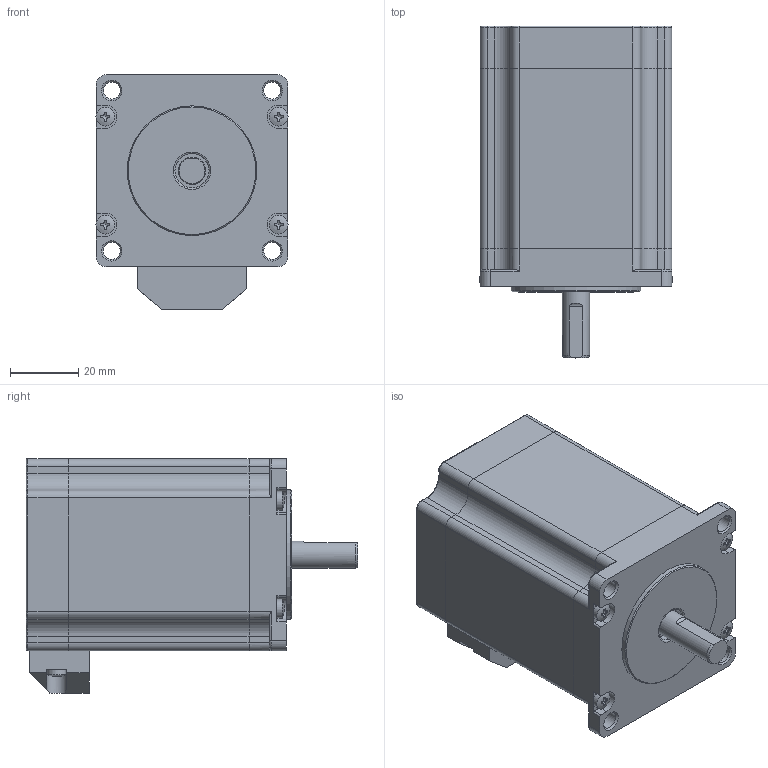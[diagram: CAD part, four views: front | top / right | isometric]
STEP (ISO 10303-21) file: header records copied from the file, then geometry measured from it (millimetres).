
FILE_DESCRIPTION( ('This file contains a STEP AP42 implementation' ,'as created by ZW3D STEP Interface translator.' ,'') ,'2;1' );
FILE_NAME( 'AM510A-57A0200-0000.stp' ,'24 724.165913', (''), ('ZWCAD Software Co.'), 'Version 1.0', 'ZW3D to STEP translator', '' );
FILE_SCHEMA(('AUTOMOTIVE_DESIGN { 1 0 10303 214 1 1 1 1 }'));
Length unit declared in the file: millimetre
Products named in the file (5): 0; 57HS076DF040X-02; 57HS076DF040X-02(默认); 蹟隊 GB_T 823-M3x30_4; 蹟隊 GB_T 823-M3x8_1
Assembly tree (7 placements, depth 2):
  0
  57HS076DF040X-02
    57HS076DF040X-02(默认)
    蹟隊 GB_T 823-M3x30_4  x4
    蹟隊 GB_T 823-M3x8_1  x2
Bounding box: 56.44 x 97.5 x 68.9 mm (x, y, z)
Volume: 227873.5 mm3; surface area: 39611.1 mm2
Topology: 12 solids, 12 shells, 338 faces, 851 edges, 540 vertices
Faces by surface type: plane 143, cylinder 140, cone 25, torus 24, sphere 6
Full cylindrical faces by diameter (mm): 2.5 x8, 3 x12, 3.2 x6, 5 x4, 5.5 x6, 8 x2, 10 x2, 38.1 x1
Entity records: 8310 total; most frequent: CARTESIAN_POINT 1482, DIRECTION 1416, ORIENTED_EDGE 1290, EDGE_CURVE 645, AXIS2_PLACEMENT_3D 540, VERTEX_POINT 412, VECTOR 336, LINE 336
